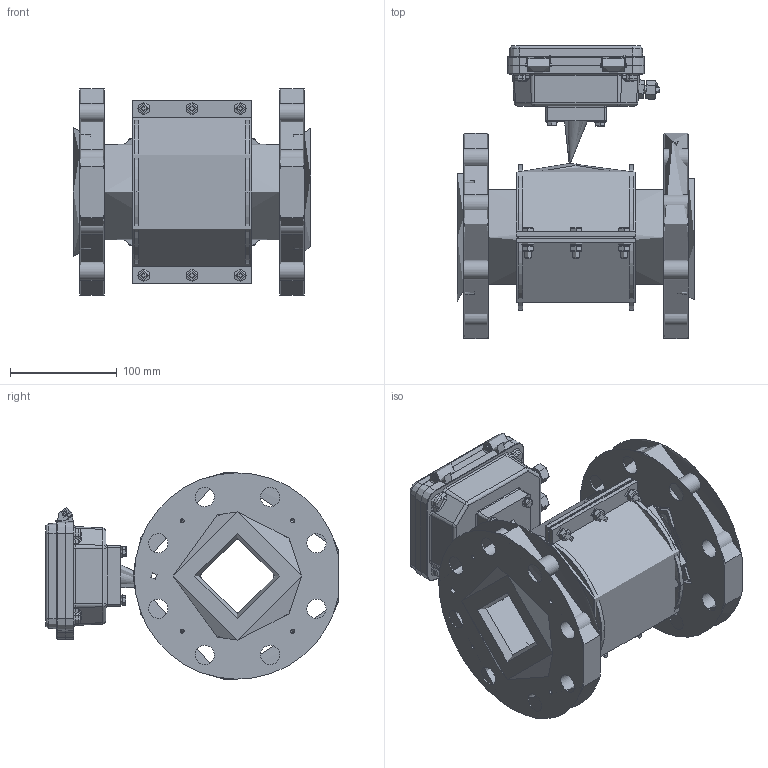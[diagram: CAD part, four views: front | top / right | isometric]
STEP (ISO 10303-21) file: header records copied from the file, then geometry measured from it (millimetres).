
FILE_DESCRIPTION(('STEP AP214'), '1');
FILE_NAME('Âçëåò ÝÐ ÏÐÎÔÈ DN80 Ôëàíåö', '', ('UNSPECIFIED'), ('UNSPECIFIED'), 'ASCON STEP Converter 1.6', 'ASCON Math Kernel', '');
FILE_SCHEMA(('AUTOMOTIVE_DESIGN { 1 0 10303 214 3 1 1}'));
Length unit declared in the file: millimetre
Products named in the file (1): 婽挭.407212.031-031.10
Bounding box: 222 x 273.87 x 193.49 mm (x, y, z)
Topology: 5 solids, 10 shells, 1385 faces, 3351 edges, 2035 vertices
Faces by surface type: plane 589, cylinder 430, cone 185, torus 141, bspline 38, sphere 2
Full cylindrical faces by diameter (mm): 0.8 x2, 2 x2, 3 x4, 3.242 x14, 3.3 x2, 3.7 x8, 4 x12, 4.134 x2, 5 x1, 5.5 x1, 6 x16, 6.3 x2, 6.4 x6, 7 x16, 7.5 x2, 8 x2, 10 x4, 11 x6, 12 x8, 12.5 x2, 16.5 x2, 18 x17, 19 x1, 20 x1, 21 x1, 25 x1, 30 x1, 71 x1, 88 x2, 89 x1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
Entity records: 71883 total; most frequent: CARTESIAN_POINT 24401, DIRECTION 6725, ORIENTED_EDGE 5992, EDGE_CURVE 2996, AXIS2_PLACEMENT_3D 2685, VERTEX_POINT 2001, EDGE_LOOP 1891, FACE_BOUND 1438
